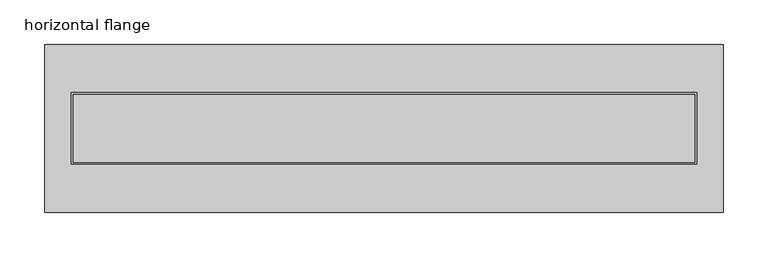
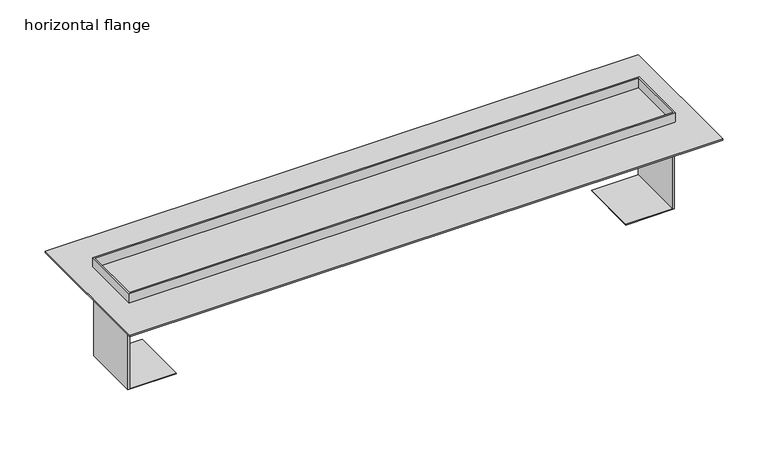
"""IFC4 building model written with IfcOpenShell, lengths in millimetres: sanitary terminal geometry, PF_ST_UN_ShowerDrain M plus_ACO : horizontal flange."""

from ifc_helpers import new_model, si_unit, frame, origin, origin_with_axes, place, context, project, spatial, polyline, outline, extrude, faceted_brep, source, transform, mapped, element, save


def horizontal_flange_0f5af5d9(model_context):
    return source(origin(), model_context, "Body", "SolidModel", [
        extrude(outline(polyline([(380.0, 94.0), (380.0, -94.0), (-380.0, -94.0), (-380.0, 94.0), (380.0, 94.0)])), origin_with_axes(), (0.0, 0.0, 1.0), 2.0),
        extrude(outline(polyline([(-16.5, -348.0), (-16.5, -350.0), (-116.5, -350.0), (-116.5, -288.0), (-115.5, -288.0), (-115.5, -348.0), (-16.5, -348.0)])), frame((0.0, -38.0, 0.0), z_axis=(0.0, 1.0, 0.0), x_axis=(0.0, 0.0, 1.0)), (0.0, 0.0, 1.0), 76.0),
        extrude(outline(polyline([(-16.5, 348.0), (-115.5, 348.0), (-115.5, 288.0), (-116.5, 288.0), (-116.5, 350.0), (-16.5, 350.0), (-16.5, 348.0)])), frame((0.0, -38.0, 0.0), z_axis=(0.0, 1.0, 0.0), x_axis=(0.0, 0.0, 1.0)), (0.0, 0.0, 1.0), 76.0),
        faceted_brep([(350.0, 40.0, 15.0), (-350.0, 40.0, 15.0), (-350.0, -40.0, 15.0), (350.0, -40.0, 15.0), (-348.0, -38.0, 15.0), (-348.0, 38.0, 15.0), (348.0, 38.0, 15.0), (348.0, -38.0, 15.0), (350.0, 40.0, -16.5), (350.0, -40.0, -16.5), (-350.0, -40.0, -16.5), (-350.0, 40.0, -16.5), (-348.0, 38.0, -6.0), (-348.0, -38.0, -6.0), (348.0, -38.0, -6.0), (348.0, 38.0, -6.0)], [[[0, 1, 2, 3], [4, 5, 6, 7]], [[8, 9, 10, 11]], [[1, 0, 8, 11]], [[2, 1, 11, 10]], [[3, 2, 10, 9]], [[0, 3, 9, 8]], [[12, 13, 14, 15]], [[13, 12, 5, 4]], [[14, 13, 4, 7]], [[15, 14, 7, 6]], [[12, 15, 6, 5]]]),
    ])


if __name__ == "__main__":
    model = new_model("IFC4")
    model_context = context("Model", 3, world=origin())
    ifc_project = project(units=[si_unit("LENGTHUNIT", "METRE", prefix="MILLI")], contexts=[model_context])
    site = spatial("IfcSite", under=ifc_project)
    building = spatial("IfcBuilding", under=site)
    placement = place(None, origin())
    horizontal_flange_shape = horizontal_flange_0f5af5d9(model_context)
    element("IfcSanitaryTerminal", 1, ObjectType="PF_ST_UN_ShowerDrain M plus_ACO : horizontal flange", at=placement, inside=building, context=model_context, shape_type="MappedRepresentation", body=[
        mapped(horizontal_flange_shape, transform((0.0, 0.0, 0.0), x_axis=(1.0, 0.0, 0.0), y_axis=(0.0, 1.0, 0.0), z_axis=(0.0, 0.0, 1.0))),
    ])
    save(model, "model.ifc")
